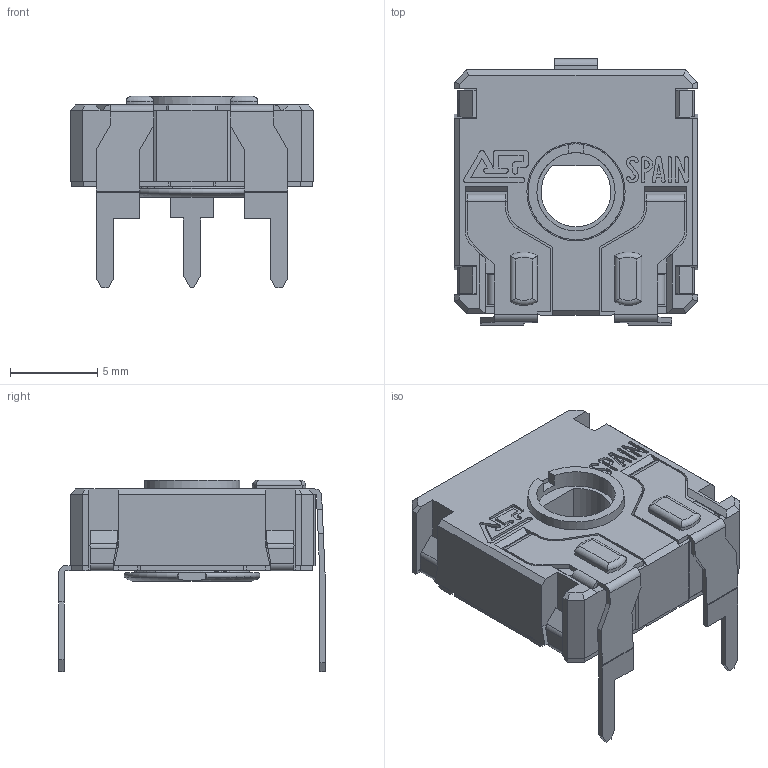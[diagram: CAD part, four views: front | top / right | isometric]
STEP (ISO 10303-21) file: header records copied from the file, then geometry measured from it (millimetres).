
FILE_DESCRIPTION(/* description */ (''),/* implementation_level */ '2;1');
FILE_NAME(/* name */ 'C:\Users\CEM\Desktop\ENVIAR\TRANSICION 3D CATALOGOS\CS14FV15.stp',/* time_stamp */ '2025-10-24T17:47:55+02:00',/* author */ ('CEM'),/* organization */ (''),/* preprocessor_version */ 'ST-DEVELOPER v17',/* originating_system */ 'Autodesk Inventor 2018',/* authorisation */ '');
FILE_SCHEMA (('AUTOMOTIVE_DESIGN { 1 0 10303 214 3 1 1 }'));
Length unit declared in the file: millimetre
Products named in the file (1): CS14FV15
Bounding box: 14 x 15.3 x 11 mm (x, y, z)
Volume: 550.2 mm3; surface area: 1611.8 mm2
Topology: 1 solids, 3 shells, 712 faces, 1998 edges, 1289 vertices
Faces by surface type: plane 543, cylinder 135, cone 15, bspline 10, torus 9
Full cylindrical faces by diameter (mm): 4.5 x1, 5.5 x1, 5.65 x1, 6.87 x1
Entity records: 23758 total; most frequent: CARTESIAN_POINT 4427, ORIENTED_EDGE 3996, DIRECTION 3714, EDGE_CURVE 1998, LINE 1578, VECTOR 1578, VERTEX_POINT 1289, AXIS2_PLACEMENT_3D 1068
